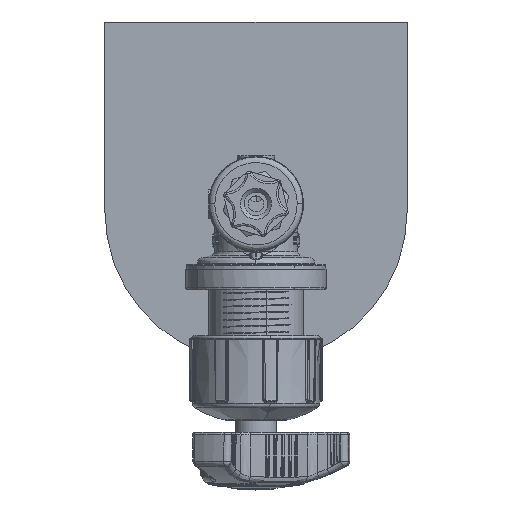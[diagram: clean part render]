
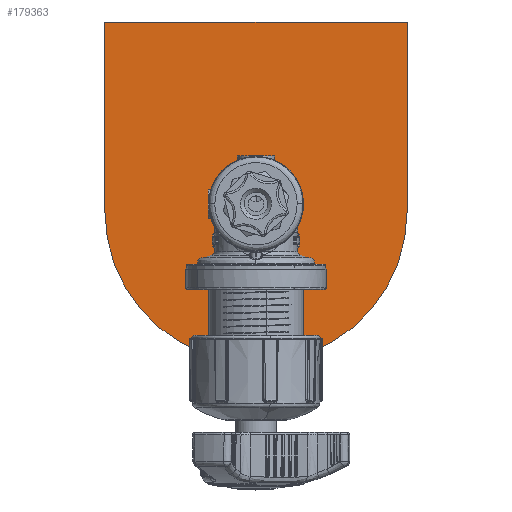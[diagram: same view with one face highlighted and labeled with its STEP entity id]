
A CAD part, front view. The second image highlights one B-rep face of the part: STEP entity #179363.
In plain terms, the highlighted planar face has unit normal (0, -1, 0).
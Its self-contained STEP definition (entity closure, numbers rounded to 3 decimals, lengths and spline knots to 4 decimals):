
#5363 = VERTEX_POINT ( 'NONE', #111274 ) ;
#6304 = ORIENTED_EDGE ( 'NONE', *, *, #85527, .F. ) ;
#6472 = CARTESIAN_POINT ( 'NONE',  ( -1.61, -0.5, 1.9375 ) ) ;
#7374 = VERTEX_POINT ( 'NONE', #83424 ) ;
#12354 = FACE_OUTER_BOUND ( 'NONE', #54472, .T. ) ;
#19225 = LINE ( 'NONE', #146721, #281113 ) ;
#24068 = CIRCLE ( 'NONE', #257540, 1.61 ) ;
#37842 = DIRECTION ( 'NONE',  ( 0., -1., 0. ) ) ;
#42390 = DIRECTION ( 'NONE',  ( 0., -1., 0. ) ) ;
#42673 = LINE ( 'NONE', #266182, #164515 ) ;
#47661 = CARTESIAN_POINT ( 'NONE',  ( 0., -0.5, 0. ) ) ;
#54472 = EDGE_LOOP ( 'NONE', ( #6304, #170443, #361120, #267247, #153327 ) ) ;
#57421 = AXIS2_PLACEMENT_3D ( 'NONE', #47661, #175104, #302497 ) ;
#74010 = LINE ( 'NONE', #201448, #122265 ) ;
#81619 = EDGE_CURVE ( 'NONE', #370679, #346912, #24068, .T. ) ;
#83424 = CARTESIAN_POINT ( 'NONE',  ( 1.61, -0.5, 1.9375 ) ) ;
#85527 = EDGE_CURVE ( 'NONE', #279394, #312265, #42673, .T. ) ;
#90925 = DIRECTION ( 'NONE',  ( 0., -1., 0. ) ) ;
#108171 = EDGE_LOOP ( 'NONE', ( #159251, #221654 ) ) ;
#108503 = DIRECTION ( 'NONE',  ( 0., 0., -1. ) ) ;
#109243 = EDGE_CURVE ( 'NONE', #7374, #346912, #74010, .T. ) ;
#111274 = CARTESIAN_POINT ( 'NONE',  ( 0., -0.5, 0.219 ) ) ;
#111382 = EDGE_CURVE ( 'NONE', #279394, #370679, #382511, .T. ) ;
#122265 = VECTOR ( 'NONE', #328809, 39.3701 ) ;
#139844 = PLANE ( 'NONE',  #307840 ) ;
#146721 = CARTESIAN_POINT ( 'NONE',  ( -1.61, -0.5, 1.9375 ) ) ;
#153327 = ORIENTED_EDGE ( 'NONE', *, *, #298813, .F. ) ;
#159251 = ORIENTED_EDGE ( 'NONE', *, *, #270835, .F. ) ;
#164515 = VECTOR ( 'NONE', #393585, 39.3701 ) ;
#165319 = DIRECTION ( 'NONE',  ( 0., 0., -1. ) ) ;
#169860 = DIRECTION ( 'NONE',  ( 0., 0., 1. ) ) ;
#170443 = ORIENTED_EDGE ( 'NONE', *, *, #111382, .T. ) ;
#175104 = DIRECTION ( 'NONE',  ( 0., -1., 0. ) ) ;
#175509 = CIRCLE ( 'NONE', #409010, 0.219 ) ;
#179363 = ADVANCED_FACE ( 'NONE', ( #298575, #12354 ), #139844, .F. ) ;
#181549 = CARTESIAN_POINT ( 'NONE',  ( 1.61, -0.5, -0.0825 ) ) ;
#201448 = CARTESIAN_POINT ( 'NONE',  ( 1.61, -0.5, 1.9375 ) ) ;
#202384 = AXIS2_PLACEMENT_3D ( 'NONE', #328544, #42390, #169860 ) ;
#218324 = DIRECTION ( 'NONE',  ( 0., 0., 1. ) ) ;
#221654 = ORIENTED_EDGE ( 'NONE', *, *, #312259, .F. ) ;
#237442 = CIRCLE ( 'NONE', #57421, 0.219 ) ;
#257540 = AXIS2_PLACEMENT_3D ( 'NONE', #377073, #90925, #218324 ) ;
#259471 = CARTESIAN_POINT ( 'NONE',  ( -1.61, -0.5, -0.0825 ) ) ;
#266182 = CARTESIAN_POINT ( 'NONE',  ( -1.61, -0.5, 1.9375 ) ) ;
#267212 = CARTESIAN_POINT ( 'NONE',  ( 0., -0.5, 0. ) ) ;
#267247 = ORIENTED_EDGE ( 'NONE', *, *, #109243, .F. ) ;
#270835 = EDGE_CURVE ( 'NONE', #311625, #5363, #237442, .T. ) ;
#274093 = DIRECTION ( 'NONE',  ( 1., 0., 0. ) ) ;
#279394 = VERTEX_POINT ( 'NONE', #259471 ) ;
#281113 = VECTOR ( 'NONE', #274093, 39.3701 ) ;
#285168 = CARTESIAN_POINT ( 'NONE',  ( 0., -0.5, -1.6925 ) ) ;
#298575 = FACE_BOUND ( 'NONE', #108171, .T. ) ;
#298813 = EDGE_CURVE ( 'NONE', #312265, #7374, #19225, .T. ) ;
#302497 = DIRECTION ( 'NONE',  ( 0., 0., -1. ) ) ;
#307840 = AXIS2_PLACEMENT_3D ( 'NONE', #267212, #394635, #108503 ) ;
#311625 = VERTEX_POINT ( 'NONE', #357348 ) ;
#312259 = EDGE_CURVE ( 'NONE', #5363, #311625, #175509, .T. ) ;
#312265 = VERTEX_POINT ( 'NONE', #6472 ) ;
#324007 = CARTESIAN_POINT ( 'NONE',  ( 0., -0.5, 0. ) ) ;
#328544 = CARTESIAN_POINT ( 'NONE',  ( 0., -0.5, -0.0825 ) ) ;
#328809 = DIRECTION ( 'NONE',  ( 0., 0., -1. ) ) ;
#346912 = VERTEX_POINT ( 'NONE', #181549 ) ;
#357348 = CARTESIAN_POINT ( 'NONE',  ( 0., -0.5, -0.219 ) ) ;
#361120 = ORIENTED_EDGE ( 'NONE', *, *, #81619, .T. ) ;
#370679 = VERTEX_POINT ( 'NONE', #285168 ) ;
#377073 = CARTESIAN_POINT ( 'NONE',  ( 0., -0.5, -0.0825 ) ) ;
#382511 = CIRCLE ( 'NONE', #202384, 1.61 ) ;
#393585 = DIRECTION ( 'NONE',  ( 0., 0., 1. ) ) ;
#394635 = DIRECTION ( 'NONE',  ( 0., 1., 0. ) ) ;
#409010 = AXIS2_PLACEMENT_3D ( 'NONE', #324007, #37842, #165319 ) ;
